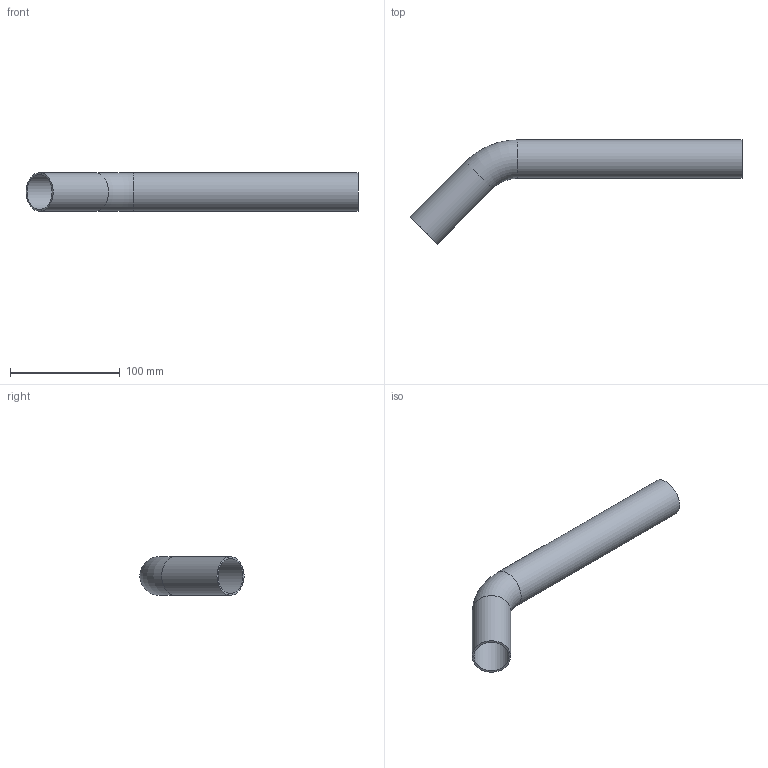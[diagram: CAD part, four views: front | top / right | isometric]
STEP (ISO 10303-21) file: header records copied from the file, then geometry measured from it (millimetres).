
FILE_DESCRIPTION((''),'2;1');
FILE_NAME('G:\Technics\CAD\Bauteile\035\6904235(1).stp','2008-02-28T09:22:19',('herberg'),(''),'Autodesk Inventor 2008','Autodesk Inventor 2008','');
FILE_SCHEMA(('AUTOMOTIVE_DESIGN { 1 0 10303 214 1 1 1 1 }'));
Length unit declared in the file: millimetre
Products named in the file (1): 6904235(1)
Bounding box: 302.43 x 94.93 x 35 mm (x, y, z)
Volume: 49703.6 mm3; surface area: 66587.2 mm2
Topology: 1 solids, 1 shells, 8 faces, 14 edges, 8 vertices
Faces by surface type: cylinder 4, torus 2, plane 2
Full cylindrical faces by diameter (mm): 32 x2, 35 x2
Entity records: 194 total; most frequent: DIRECTION 34, CARTESIAN_POINT 25, AXIS2_PLACEMENT_3D 17, ORIENTED_EDGE 16, EDGE_LOOP 16, VERTEX_POINT 8, CIRCLE 8, EDGE_CURVE 8
